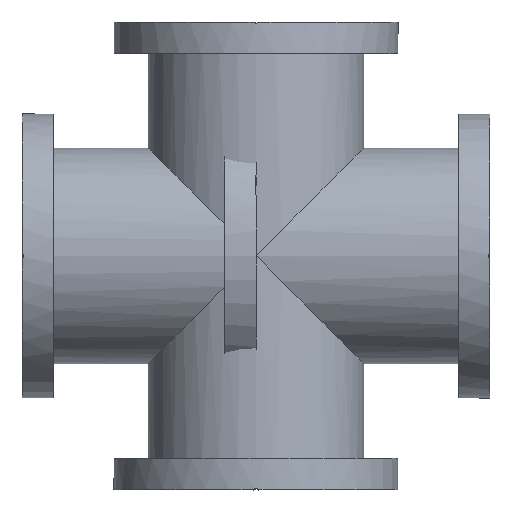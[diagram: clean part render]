
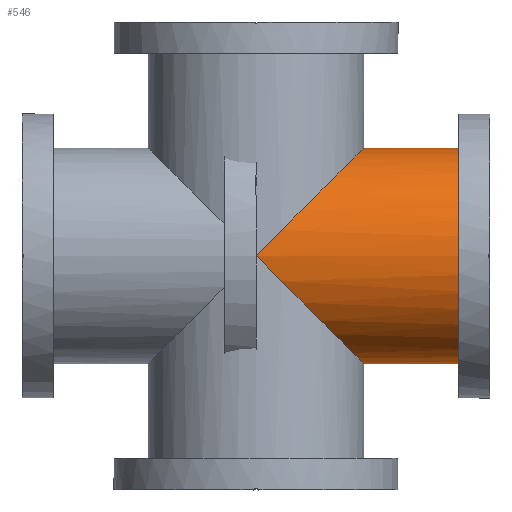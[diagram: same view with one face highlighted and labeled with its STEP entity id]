
A CAD part, top view. The second image highlights one B-rep face of the part: STEP entity #546.
In plain terms, the highlighted cylindrical face has radius 77 mm (diameter 154 mm), a full revolution.
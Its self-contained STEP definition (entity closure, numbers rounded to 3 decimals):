
#546 = ADVANCED_FACE( '', ( #823, #824 ), #825, .T. );
#823 = FACE_OUTER_BOUND( '', #952, .T. );
#824 = FACE_OUTER_BOUND( '', #953, .T. );
#825 = CYLINDRICAL_SURFACE( '', #954, 77. );
#952 = EDGE_LOOP( '', ( #1155, #1156 ) );
#953 = EDGE_LOOP( '', ( #1157 ) );
#954 = AXIS2_PLACEMENT_3D( '', #1158, #1159, #1160 );
#1155 = ORIENTED_EDGE( '', *, *, #1409, .T. );
#1156 = ORIENTED_EDGE( '', *, *, #1421, .T. );
#1157 = ORIENTED_EDGE( '', *, *, #1422, .T. );
#1158 = CARTESIAN_POINT( '', ( 157.5, 0., 0. ) );
#1159 = DIRECTION( '', ( 1., 0., 0. ) );
#1160 = DIRECTION( '', ( 0., 0., 1. ) );
#1409 = EDGE_CURVE( '', #1585, #1584, #1587, .T. );
#1421 = EDGE_CURVE( '', #1584, #1585, #1607, .F. );
#1422 = EDGE_CURVE( '', #1608, #1608, #1609, .T. );
#1584 = VERTEX_POINT( '', #1612 );
#1585 = VERTEX_POINT( '', #1613 );
#1587 = ELLIPSE( '', #1615, 108.894, 77. );
#1607 = ELLIPSE( '', #1635, 108.894, 77. );
#1608 = VERTEX_POINT( '', #1636 );
#1609 = CIRCLE( '', #1637, 77. );
#1612 = CARTESIAN_POINT( '', ( 0., 0., -77. ) );
#1613 = CARTESIAN_POINT( '', ( 0., 0., 77. ) );
#1615 = AXIS2_PLACEMENT_3D( '', #1643, #1644, #1645 );
#1635 = AXIS2_PLACEMENT_3D( '', #1679, #1680, #1681 );
#1636 = CARTESIAN_POINT( '', ( 157.5, 77., 0. ) );
#1637 = AXIS2_PLACEMENT_3D( '', #1682, #1683, #1684 );
#1643 = CARTESIAN_POINT( '', ( 0., 0., 0. ) );
#1644 = DIRECTION( '', ( 0.707, 0.707, 0. ) );
#1645 = DIRECTION( '', ( -0.707, 0.707, 0. ) );
#1679 = CARTESIAN_POINT( '', ( 0., 0., 0. ) );
#1680 = DIRECTION( '', ( -0.707, 0.707, 0. ) );
#1681 = DIRECTION( '', ( 0.707, 0.707, 0. ) );
#1682 = CARTESIAN_POINT( '', ( 157.5, 0., 0. ) );
#1683 = DIRECTION( '', ( -1., 0., 0. ) );
#1684 = DIRECTION( '', ( 0., 1., 0. ) );
